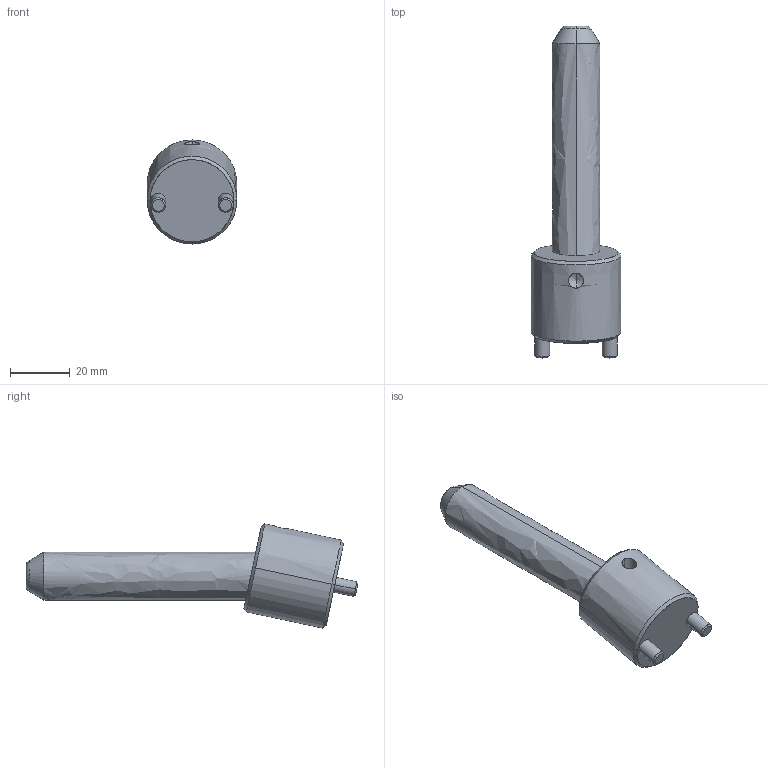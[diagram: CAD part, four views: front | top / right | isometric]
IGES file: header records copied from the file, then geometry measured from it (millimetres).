
Start section: START RECORD GO HERE.
Global section: file name: CI1216075.igs; native system: DASSAULT SYSTEMES CATIA V5 R20 - www.3ds.com; preprocessor: CATIA Version 5 Release 20 ; author: r.borello; organization: CFTORINO; date: 20190621.160242; units: millimetre
Bounding box: 30 x 110.76 x 34.75 mm (x, y, z)
Surface area: 10713.6 mm2 (no closed solid volume)
Topology: 0 solids, 0 shells, 39 faces, 162 edges, 160 vertices
Faces by surface type: revolution 32, plane 7
